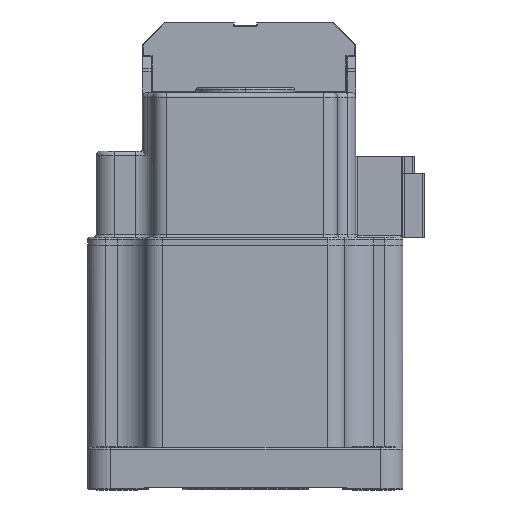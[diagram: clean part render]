
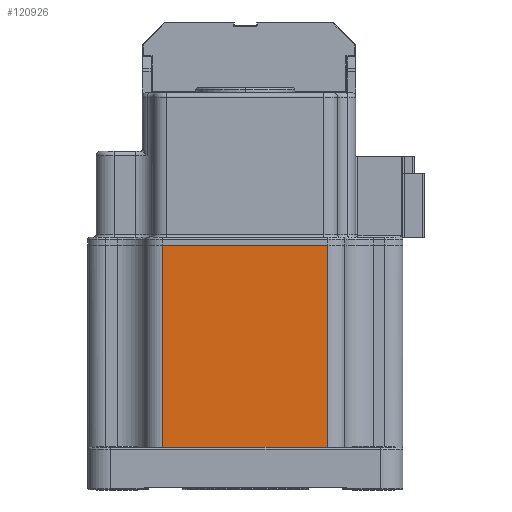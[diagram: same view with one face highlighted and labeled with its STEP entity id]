
A CAD part, left-side view. The second image highlights one B-rep face of the part: STEP entity #120926.
In plain terms, the highlighted planar face has unit normal (-1, 0, 0) as drawn and (1, 0, 0) by its records, which use the part's own axes.
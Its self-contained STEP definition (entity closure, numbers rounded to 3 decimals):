
#11460 = EDGE_CURVE ( 'NONE', #11831, #137478, #43281, .T. ) ;
#11831 = VERTEX_POINT ( 'NONE', #113279 ) ;
#14527 = EDGE_LOOP ( 'NONE', ( #84420, #16317, #64776, #62448 ) ) ;
#16317 = ORIENTED_EDGE ( 'NONE', *, *, #84331, .F. ) ;
#20382 = DIRECTION ( 'NONE',  ( 0., 1., 0. ) ) ;
#28303 = PLANE ( 'NONE',  #31445 ) ;
#29535 = DIRECTION ( 'NONE',  ( 0., 0., -1. ) ) ;
#31445 = AXIS2_PLACEMENT_3D ( 'NONE', #95273, #129607, #97214 ) ;
#41593 = VECTOR ( 'NONE', #76868, 1000. ) ;
#43281 = LINE ( 'NONE', #111112, #41593 ) ;
#49397 = VERTEX_POINT ( 'NONE', #113430 ) ;
#52457 = VECTOR ( 'NONE', #29535, 1000. ) ;
#52832 = EDGE_CURVE ( 'NONE', #11831, #58194, #92494, .T. ) ;
#53913 = CARTESIAN_POINT ( 'NONE',  ( 44.5, 18.336, 9. ) ) ;
#54516 = VECTOR ( 'NONE', #20382, 1000. ) ;
#58194 = VERTEX_POINT ( 'NONE', #53913 ) ;
#59902 = CARTESIAN_POINT ( 'NONE',  ( 44.5, 0., 9. ) ) ;
#62448 = ORIENTED_EDGE ( 'NONE', *, *, #11460, .F. ) ;
#64776 = ORIENTED_EDGE ( 'NONE', *, *, #72135, .F. ) ;
#70730 = DIRECTION ( 'NONE',  ( 0., 1., 0. ) ) ;
#72135 = EDGE_CURVE ( 'NONE', #137478, #49397, #94668, .T. ) ;
#76121 = CARTESIAN_POINT ( 'NONE',  ( 44.5, 0., 53.9 ) ) ;
#76701 = FACE_OUTER_BOUND ( 'NONE', #14527, .T. ) ;
#76868 = DIRECTION ( 'NONE',  ( 0., 0., 1. ) ) ;
#84331 = EDGE_CURVE ( 'NONE', #49397, #58194, #110317, .T. ) ;
#84420 = ORIENTED_EDGE ( 'NONE', *, *, #52832, .T. ) ;
#92494 = LINE ( 'NONE', #59902, #132919 ) ;
#94668 = LINE ( 'NONE', #76121, #54516 ) ;
#95273 = CARTESIAN_POINT ( 'NONE',  ( 44.5, -21.75, 53.9 ) ) ;
#97214 = DIRECTION ( 'NONE',  ( 0., 0., 1. ) ) ;
#110317 = LINE ( 'NONE', #141725, #52457 ) ;
#111112 = CARTESIAN_POINT ( 'NONE',  ( 44.5, -18.336, 53.9 ) ) ;
#113279 = CARTESIAN_POINT ( 'NONE',  ( 44.5, -18.336, 9. ) ) ;
#113430 = CARTESIAN_POINT ( 'NONE',  ( 44.5, 18.336, 53.9 ) ) ;
#120654 = CARTESIAN_POINT ( 'NONE',  ( 44.5, -18.336, 53.9 ) ) ;
#120926 = ADVANCED_FACE ( 'NONE', ( #76701 ), #28303, .F. ) ;
#129607 = DIRECTION ( 'NONE',  ( -1., 0., 0. ) ) ;
#132919 = VECTOR ( 'NONE', #70730, 1000. ) ;
#137478 = VERTEX_POINT ( 'NONE', #120654 ) ;
#141725 = CARTESIAN_POINT ( 'NONE',  ( 44.5, 18.336, 53.9 ) ) ;
